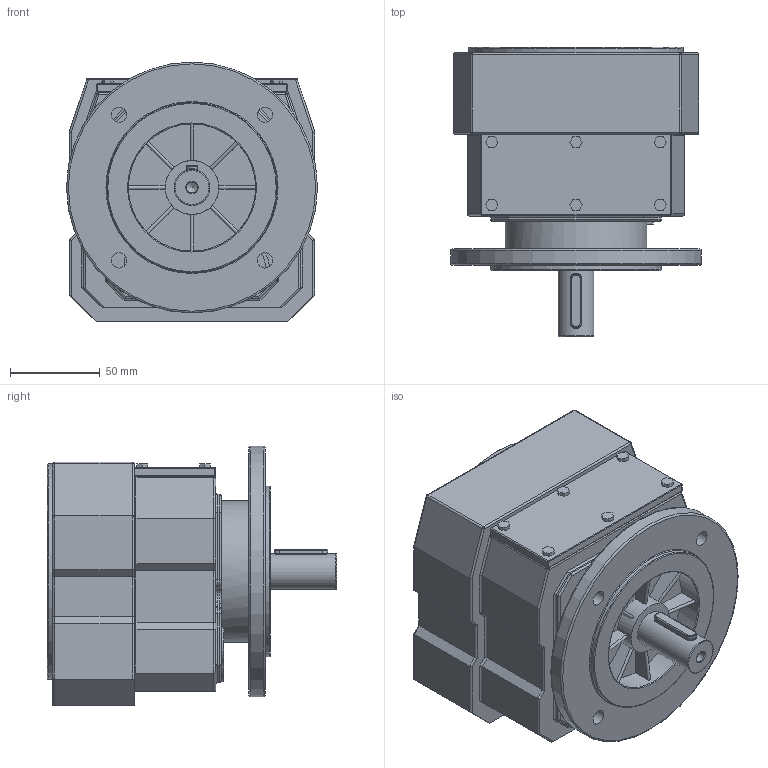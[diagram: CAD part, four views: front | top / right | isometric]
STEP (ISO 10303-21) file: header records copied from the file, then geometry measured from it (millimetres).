
FILE_DESCRIPTION((''),'2;1');
FILE_NAME('D:\PAWEŁ\ZLECENIA\2011 DualSystem\Przekładnie DR\DR10\STEP\DRF10_fi 140.stp','2012-06-11T11:45:25',('admin'),(''),'Autodesk Inventor 2009','Autodesk Inventor 2009','');
FILE_SCHEMA(('AUTOMOTIVE_DESIGN { 1 0 10303 214 1 1 1 1 }'));
Length unit declared in the file: millimetre
Products named in the file (1): DRF10_fi 140
Bounding box: 140 x 161.5 x 145 mm (x, y, z)
Volume: 1725302 mm3; surface area: 123033.4 mm2
Topology: 1 solids, 1 shells, 331 faces, 806 edges, 481 vertices
Faces by surface type: plane 152, cylinder 133, bspline 19, torus 17, sphere 10
Full cylindrical faces by diameter (mm): 20 x1, 30 x1, 71 x1, 79 x1, 80 x1, 95 x1, 120 x1, 140 x1
Entity records: 10538 total; most frequent: CARTESIAN_POINT 2780, DIRECTION 1627, ORIENTED_EDGE 1544, EDGE_CURVE 772, AXIS2_PLACEMENT_3D 569, VECTOR 489, LINE 489, VERTEX_POINT 473
